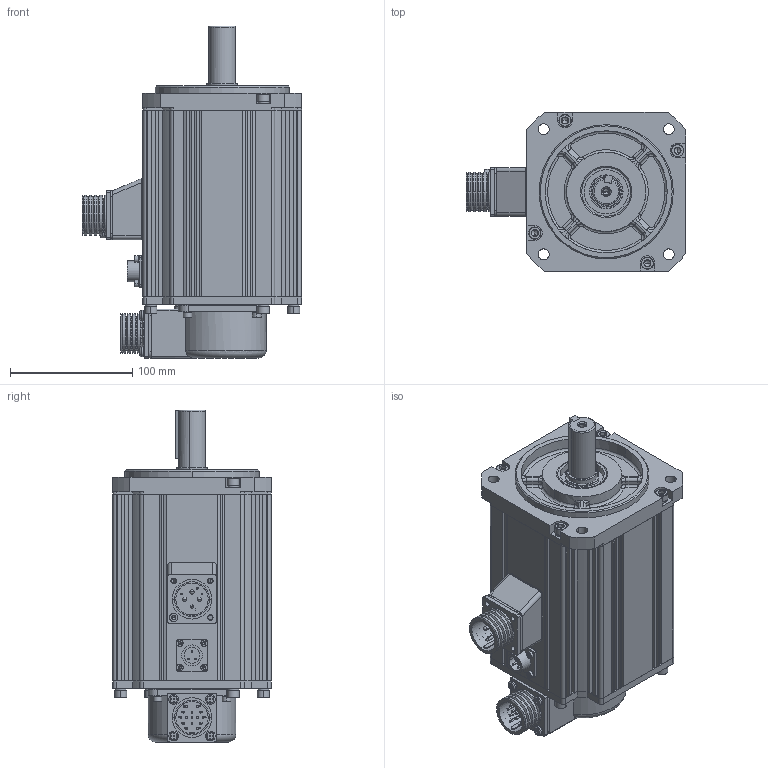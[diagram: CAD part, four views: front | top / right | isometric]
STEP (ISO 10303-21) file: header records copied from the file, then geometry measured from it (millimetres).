
FILE_DESCRIPTION((''),'2;1');
FILE_NAME('SV-MM13-2R0E-X-XA4-1000_ASM_ASM','2019-12-11T',('JWDQ'),(''),'CREO PARAMETRIC BY PTC INC, 2014050','CREO PARAMETRIC BY PTC INC, 2014050','');
FILE_SCHEMA(('CONFIG_CONTROL_DESIGN'));
Products named in the file (35): SV130BZ-ZHOU_1_1_2_3_4_5_6_AF0; SV130BZ-ZZ-1_ASM_1_1_2_3_4__AF1_ASM; SV130BZ-ZZ-2_ASM_1_1_2_3_4__AF1_ASM; 80100020-1_1_1_2_3_4_5_6; SV130BZ-HG_ASM_1_1_2_3_4_5_6_ASM; SV130BZ-ZHUANZ_ASM_1_1_2_3__AF2_ASM; SV130BZ-K_1_1_2_3_4_5_6; 513704090100_1_1_2_3_4_5_6_7_15; 046770000100_1_1_2_3_4_5_6_7_14; 80750004_1_1_2_3_4_5_6_7_8_9_15; 78400020_1_1_2_3_4_5_6_7_8_9_15; GBT93-4_1_1_2_3_4_5_6_7_8_9__12; GBT7R1-4X35_1_1_2_3_4_5_6_7__13; S-YD28-4_ASM_1_1_2_3_4_5_6_7_13_ASM; SV130BZ-DZ-1_ASM_1_1_2_3_4_5_6_ASM; SV130BZ-DINGZ_ASM_1_1_2_3_4_5_6_ASM; 80100007_1_1_2_3_4_5_6_7_8_9_15; 730030000200_1_1_2_3_4_5_6_7_15; SV130-QG_ASM_1_1_2_3_4_5_6_7_13_ASM; 82340004_1_1_2_3_4_5_6_7_8_9_15; 046770000100_1; 513715090100_1_1_2_3_4_5_6_7_15; 78400019_1_1_2_3_4_5_6_7_8_9_15; GBT93-4_1; GBT70R1-4X12_1_1_2_3_4_5_6_7_13; M4X16_1_1_2_3_4_5_6_7_8_9_10_15; TS5214_ASM_1_1_2_3_4_5_6_7_8_12_ASM; GBT93-6_1_1_2_3_4_5_6_7_8_9__13; GBT7R1-M6X16_1_1_2_3_4_5_6_7_13; GBT1095-6X6-41_1_1_2_3_4_5_6; XS16-3P_1_1_2_3_4_5_6; GB93-3_1_1_2_3_4_5_6_7; GBT7R1-3X8_1_1_2_3_4_5_6_7; SV130-BZ_ASM_2_1_2_3_4_5_AF0_ASM; SV-MM13-2R0E-X-XA4-1000_ASM_ASM
Assembly tree (67 placements, depth 6):
  SV-MM13-2R0E-X-XA4-1000_ASM_ASM
    SV130-BZ_ASM_2_1_2_3_4_5_AF0_ASM
      SV130BZ-ZHUANZ_ASM_1_1_2_3__AF2_ASM
        SV130BZ-ZZ-2_ASM_1_1_2_3_4__AF1_ASM
          SV130BZ-ZZ-1_ASM_1_1_2_3_4__AF1_ASM
            SV130BZ-ZHOU_1_1_2_3_4_5_6_AF0
        SV130BZ-HG_ASM_1_1_2_3_4_5_6_ASM
          80100020-1_1_1_2_3_4_5_6
      SV130BZ-DINGZ_ASM_1_1_2_3_4_5_6_ASM
        SV130BZ-DZ-1_ASM_1_1_2_3_4_5_6_ASM
          SV130BZ-K_1_1_2_3_4_5_6
          S-YD28-4_ASM_1_1_2_3_4_5_6_7_13_ASM
            513704090100_1_1_2_3_4_5_6_7_15
            046770000100_1_1_2_3_4_5_6_7_14
            80750004_1_1_2_3_4_5_6_7_8_9_15
            78400020_1_1_2_3_4_5_6_7_8_9_15
            GBT93-4_1_1_2_3_4_5_6_7_8_9__12
            GBT7R1-4X35_1_1_2_3_4_5_6_7__13
      SV130-QG_ASM_1_1_2_3_4_5_6_7_13_ASM
        80100007_1_1_2_3_4_5_6_7_8_9_15
        730030000200_1_1_2_3_4_5_6_7_15
      TS5214_ASM_1_1_2_3_4_5_6_7_8_12_ASM
        82340004_1_1_2_3_4_5_6_7_8_9_15
        046770000100_1
        513715090100_1_1_2_3_4_5_6_7_15
        78400019_1_1_2_3_4_5_6_7_8_9_15
        GBT93-4_1  x8
        GBT70R1-4X12_1_1_2_3_4_5_6_7_13  x4
        M4X16_1_1_2_3_4_5_6_7_8_9_10_15  x4
      GBT93-6_1_1_2_3_4_5_6_7_8_9__13  x8
      GBT7R1-M6X16_1_1_2_3_4_5_6_7_13  x8
      GBT1095-6X6-41_1_1_2_3_4_5_6
      XS16-3P_1_1_2_3_4_5_6
      GB93-3_1_1_2_3_4_5_6_7  x4
      GBT7R1-3X8_1_1_2_3_4_5_6_7  x4
Bounding box: 179.5 x 130 x 272 mm (x, y, z)
Volume: 1024543.6 mm3; surface area: 414412.7 mm2
Topology: 57 solids, 75 shells, 3304 faces, 8611 edges, 5583 vertices
Faces by surface type: plane 1925, cylinder 828, cone 394, torus 100, bspline 31, sphere 26
Entity records: 104563 total; most frequent: CARTESIAN_POINT 17079, DIRECTION 14686, ORIENTED_EDGE 14306, EDGE_CURVE 7163, AXIS2_PLACEMENT_3D 4923, VECTOR 4840, LINE 4840, VERTEX_POINT 4747
